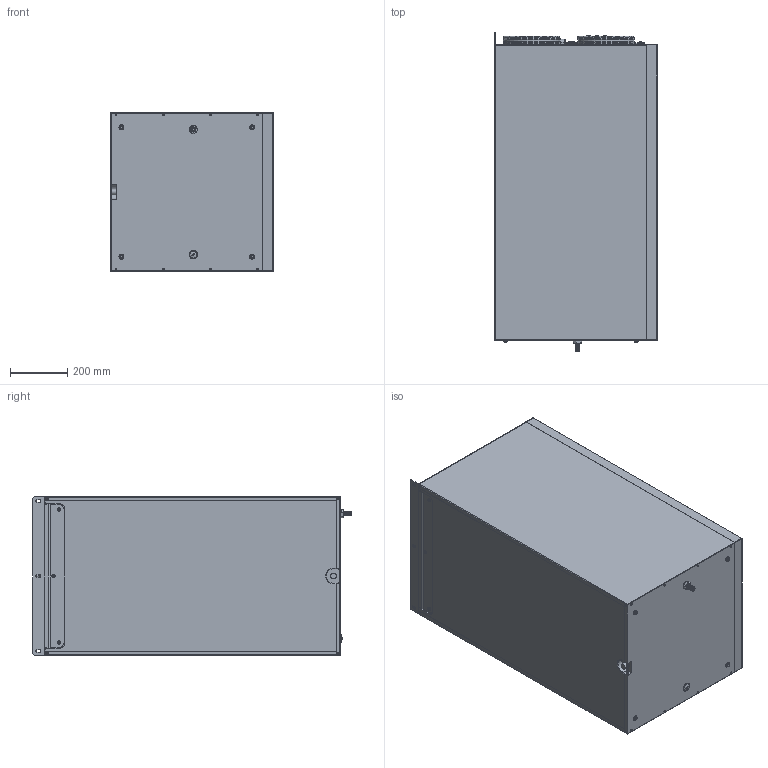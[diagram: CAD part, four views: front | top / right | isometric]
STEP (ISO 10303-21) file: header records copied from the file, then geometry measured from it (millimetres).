
FILE_DESCRIPTION(/* description */ (''),/* implementation_level */ '2;1');
FILE_NAME(/* name */ 'C:\WF Home\ECO275 H - BIM.stp',/* time_stamp */ '2020-09-21T09:36:49+02:00',/* author */ ('3113thmo'),/* organization */ (''),/* preprocessor_version */ 'ST-DEVELOPER v16.13',/* originating_system */ 'Autodesk Inventor 2018',/* authorisation */ '');
FILE_SCHEMA (('AUTOMOTIVE_DESIGN { 1 0 10303 214 3 1 1 }'));
Products named in the file (1): ECO275 H - BIM
Bounding box: 572.77 x 1116.5 x 557.8 mm (x, y, z)
Volume: 330600413.4 mm3; surface area: 3172138.9 mm2
Topology: 1 solids, 3 shells, 1736 faces, 4309 edges, 2747 vertices
Faces by surface type: plane 897, bspline 266, cylinder 228, torus 161, cone 146, sphere 38
Full cylindrical faces by diameter (mm): 2.729 x2, 3 x2, 3.3 x2, 4 x2, 4.9 x2, 5 x2, 6 x5, 6.3 x20, 6.5 x2, 8 x3, 10.5 x4, 12 x7, 14 x2, 15 x2, 17.5 x1, 19 x1, 20 x1, 21 x1, 29.7 x1, 160 x4, 200 x4
Entity records: 57347 total; most frequent: CARTESIAN_POINT 16992, ORIENTED_EDGE 7976, DIRECTION 7317, EDGE_CURVE 3986, VERTEX_POINT 2690, AXIS2_PLACEMENT_3D 2520, LINE 2277, VECTOR 2277
